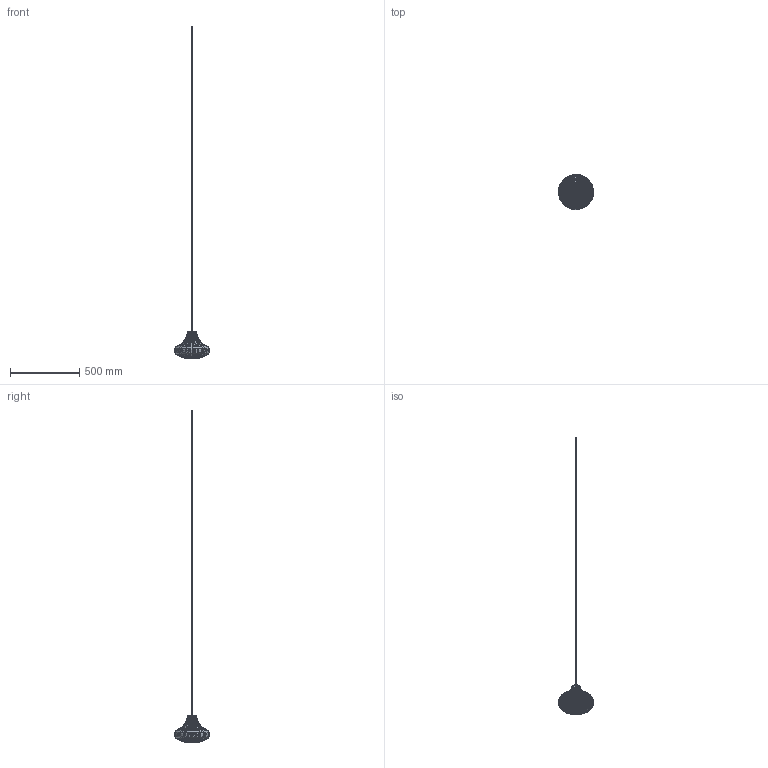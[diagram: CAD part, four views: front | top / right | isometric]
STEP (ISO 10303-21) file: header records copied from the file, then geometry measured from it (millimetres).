
FILE_DESCRIPTION(/* description */ (''),/* implementation_level */ '2;1');
FILE_NAME(/* name */ 'M091.000',/* time_stamp */ '2024-09-02T15:50:13+02:00',/* author */ (''),/* organization */ (''),/* preprocessor_version */ 'ST-DEVELOPER v16.5',/* originating_system */ '',/* authorisation */ '');
FILE_SCHEMA (('AUTOMOTIVE_DESIGN'));
Products named in the file (1): Document
Bounding box: 254.02 x 254.17 x 2389.3 mm (x, y, z)
Volume: 528305 mm3; surface area: 441028.6 mm2
Topology: 13 solids, 17 shells, 3188 faces, 8215 edges, 5042 vertices
Faces by surface type: bspline 2232, plane 956
Entity records: 283308 total; most frequent: CARTESIAN_POINT 235954, ORIENTED_EDGE 16373, EDGE_CURVE 8211, B_SPLINE_CURVE_WITH_KNOTS 5076, VERTEX_POINT 5042, EDGE_LOOP 3233, ADVANCED_FACE 3188, FACE_OUTER_BOUND 3188
